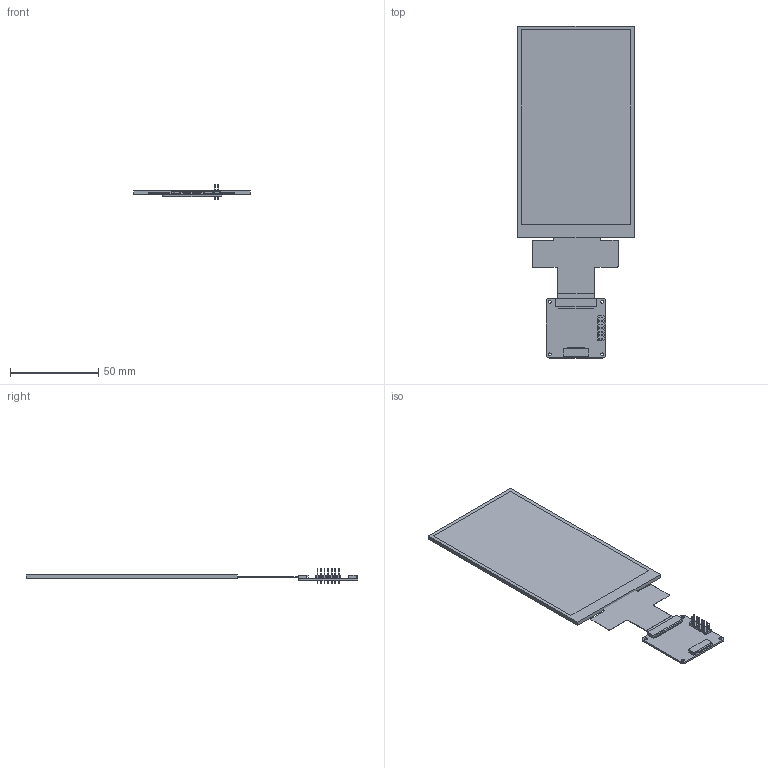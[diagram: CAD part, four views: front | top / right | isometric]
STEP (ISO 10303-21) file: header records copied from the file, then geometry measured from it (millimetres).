
FILE_DESCRIPTION((''),'2;1');
FILE_NAME('TS050FWV01NP-H1336A-V00-250414_ASM','2025-04-14T15:12:43',('Shaozi'),(''),'CREO PARAMETRIC BY PTC INC, 2024063','CREO PARAMETRIC BY PTC INC, 2024063','');
FILE_SCHEMA(('AUTOMOTIVE_DESIGN { 1 0 10303 214 1 1 1 1 }'));
Length unit declared in the file: millimetre
Products named in the file (9): LCD-V00-241101; FPC_LCD-V00-241101; TL050FWV20-H1336A-V00-241101_ASM; 1B000S010-2-V00-241119; AFC24-S40-V00-20240717; AFC01-S20-V00-241021; PZ200_2_07_Z-V00-241022; 5B000S010-2-V00-241119_ASM; TS050FWV01NP-H1336A-V00-250414_ASM
Assembly tree (8 placements, depth 3):
  TS050FWV01NP-H1336A-V00-250414_ASM
    TL050FWV20-H1336A-V00-241101_ASM
      LCD-V00-241101
      FPC_LCD-V00-241101
    5B000S010-2-V00-241119_ASM
      1B000S010-2-V00-241119
      AFC24-S40-V00-20240717
      AFC01-S20-V00-241021
      PZ200_2_07_Z-V00-241022
Bounding box: 66.4 x 188.6 x 8.8 mm (x, y, z)
Volume: 19472.4 mm3; surface area: 22953.8 mm2
Topology: 6 solids, 6 shells, 370 faces, 988 edges, 660 vertices
Faces by surface type: plane 350, cylinder 20
Entity records: 15649 total; most frequent: CARTESIAN_POINT 2205, DIRECTION 2035, ORIENTED_EDGE 1968, EDGE_CURVE 984, VECTOR 952, LINE 952, PRESENTATION_STYLE_ASSIGNMENT 851, STYLED_ITEM 777
